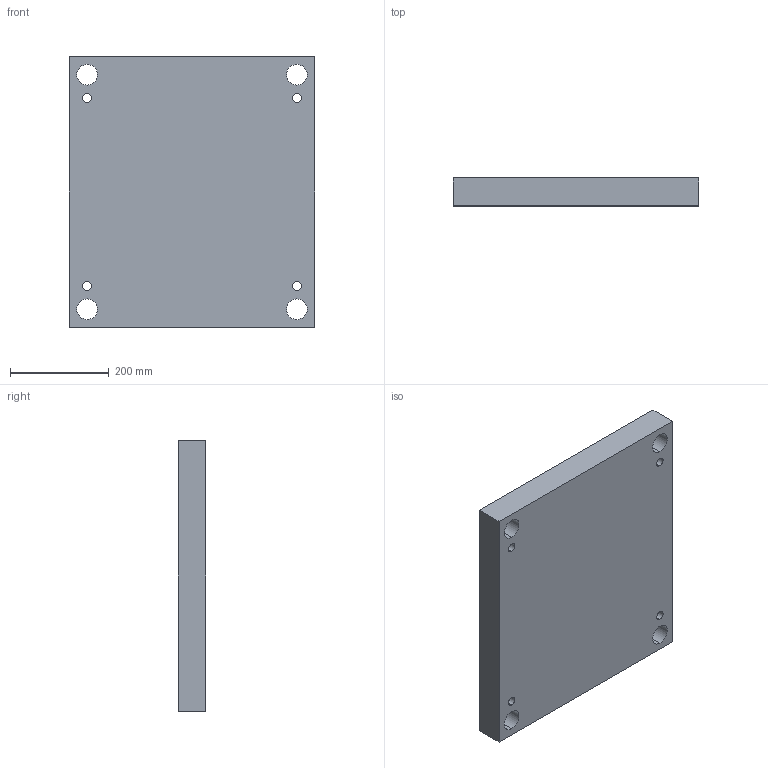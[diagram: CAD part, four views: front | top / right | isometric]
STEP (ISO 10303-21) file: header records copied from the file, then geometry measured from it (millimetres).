
FILE_DESCRIPTION (( 'STEP AP214' ), '1' );
FILE_NAME ('L45_496x546x056.STEP', '2018-10-05T18:39:55', ( '' ), ( '' ), 'SwSTEP 2.0', 'SolidWorks 2014', '' );
FILE_SCHEMA (( 'AUTOMOTIVE_DESIGN' ));
Length unit declared in the file: millimetre
Products named in the file (1): L45_496x546x056
Bounding box: 496 x 56 x 546 mm (x, y, z)
Volume: 14798355.9 mm3; surface area: 687439.7 mm2
Topology: 1 solids, 1 shells, 22 faces, 60 edges, 40 vertices
Faces by surface type: cylinder 16, plane 6
Entity records: 782 total; most frequent: DIRECTION 138, CARTESIAN_POINT 123, ORIENTED_EDGE 120, EDGE_CURVE 60, AXIS2_PLACEMENT_3D 55, VERTEX_POINT 40, EDGE_LOOP 38, CIRCLE 32
